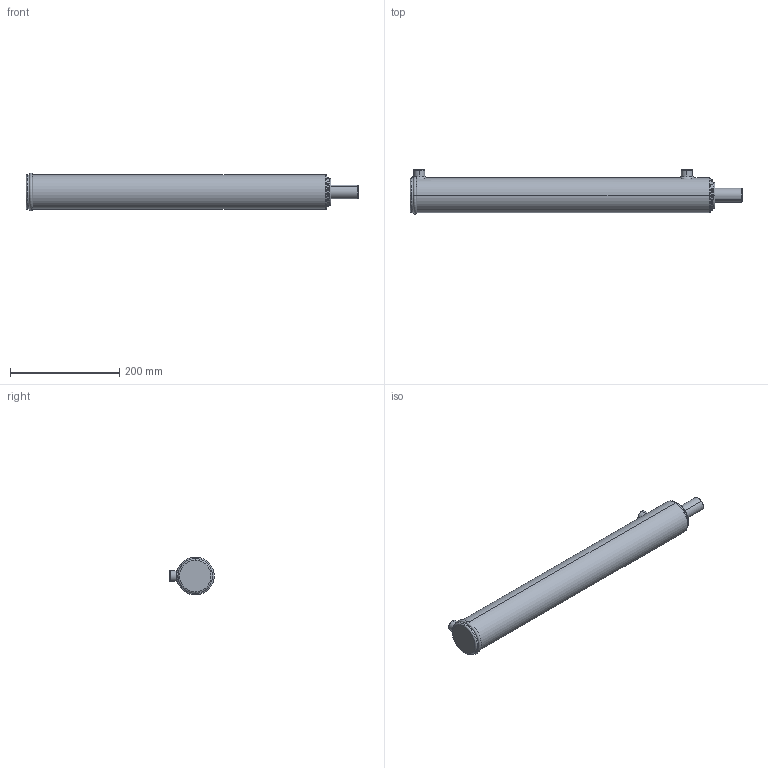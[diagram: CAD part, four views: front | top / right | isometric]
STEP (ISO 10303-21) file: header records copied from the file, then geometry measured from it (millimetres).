
FILE_DESCRIPTION (( 'STEP AP203' ), '1' );
FILE_NAME ('BL200100X457 (18).STEP', '2014-11-23T21:07:52', ( '' ), ( '' ), 'SwSTEP 2.0', 'SolidWorks 2014', '' );
FILE_SCHEMA (( 'CONFIG_CONTROL_DESIGN' ));
Length unit declared in the file: millimetre
Products named in the file (3): Spare_2x18; BL200100X457 (18); BL body 2_2x18
Assembly tree (2 placements, depth 2):
  BL200100X457 (18)
    BL body 2_2x18
    Spare_2x18
Bounding box: 608 x 81.5 x 69.5 mm (x, y, z)
Volume: 1944644.2 mm3; surface area: 190689.6 mm2
Topology: 2 solids, 2 shells, 83 faces, 192 edges, 118 vertices
Faces by surface type: cylinder 31, plane 20, torus 17, cone 8, bspline 7
Entity records: 4855 total; most frequent: CARTESIAN_POINT 2688, DIRECTION 416, ORIENTED_EDGE 376, EDGE_CURVE 188, AXIS2_PLACEMENT_3D 179, VERTEX_POINT 118, CIRCLE 98, EDGE_LOOP 96
